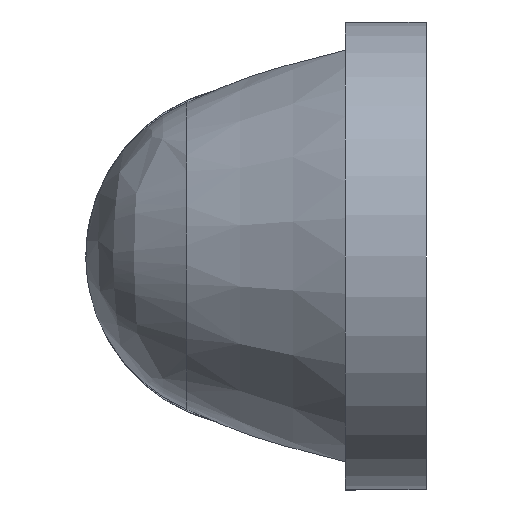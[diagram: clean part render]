
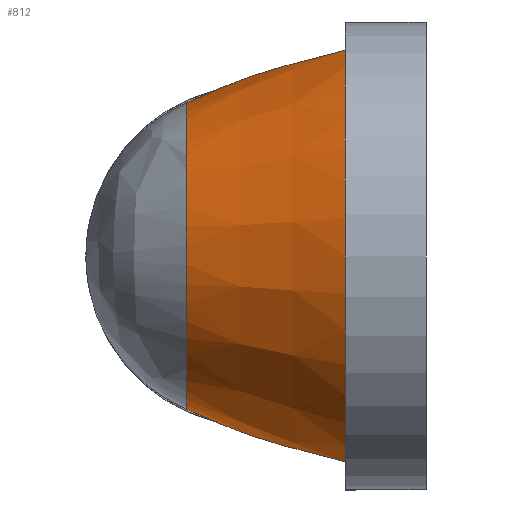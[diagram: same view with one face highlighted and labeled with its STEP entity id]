
A CAD part, left-side view. The second image highlights one B-rep face of the part: STEP entity #812.
In plain terms, the highlighted conical face has half-angle 23.025 degrees and reference radius 2.6 mm.
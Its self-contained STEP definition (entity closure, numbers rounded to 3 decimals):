
#7 = CARTESIAN_POINT ( 'NONE',  ( -1.606, 5.624, -3.242 ) ) ;
#13 = AXIS2_PLACEMENT_3D ( 'NONE', #452, #51, #259 ) ;
#19 = VERTEX_POINT ( 'NONE', #143 ) ;
#22 = CARTESIAN_POINT ( 'NONE',  ( -3.609, 5.625, -0.238 ) ) ;
#23 = ORIENTED_EDGE ( 'NONE', *, *, #586, .T. ) ;
#24 = VECTOR ( 'NONE', #130, 1000. ) ;
#41 = EDGE_CURVE ( 'NONE', #782, #189, #198, .T. ) ;
#43 = VERTEX_POINT ( 'NONE', #616 ) ;
#51 = DIRECTION ( 'NONE',  ( 0., 1., 0. ) ) ;
#54 = CARTESIAN_POINT ( 'NONE',  ( 0., 5.623, 3.61 ) ) ;
#69 = CARTESIAN_POINT ( 'NONE',  ( -0.941, 5.623, -3.493 ) ) ;
#78 = DIRECTION ( 'NONE',  ( 0., -0.92, -0.391 ) ) ;
#82 = EDGE_CURVE ( 'NONE', #19, #287, #706, .T. ) ;
#83 = CARTESIAN_POINT ( 'NONE',  ( -1.882, 1.9, 4.839 ) ) ;
#86 = CARTESIAN_POINT ( 'NONE',  ( -3.587, 5.625, 0.467 ) ) ;
#89 = CARTESIAN_POINT ( 'NONE',  ( -2.722, 5.625, -2.383 ) ) ;
#116 = CARTESIAN_POINT ( 'NONE',  ( -1.882, 1.9, -4.839 ) ) ;
#122 = CARTESIAN_POINT ( 'NONE',  ( -0.238, 5.623, -3.61 ) ) ;
#124 = CARTESIAN_POINT ( 'NONE',  ( -0.37, 4.286, 4.165 ) ) ;
#130 = DIRECTION ( 'NONE',  ( 0., 0.92, -0.391 ) ) ;
#133 = VECTOR ( 'NONE', #78, 1000. ) ;
#138 = CARTESIAN_POINT ( 'NONE',  ( -2.205, 5.624, -2.868 ) ) ;
#141 = CARTESIAN_POINT ( 'NONE',  ( 0., 8., 0. ) ) ;
#143 = CARTESIAN_POINT ( 'NONE',  ( 0., 5.012, 3.87 ) ) ;
#145 = CARTESIAN_POINT ( 'NONE',  ( 0., 14.118, 0. ) ) ;
#151 = CARTESIAN_POINT ( 'NONE',  ( -3.133, 5.625, 1.807 ) ) ;
#155 = CARTESIAN_POINT ( 'NONE',  ( -3.245, 5.625, -1.597 ) ) ;
#174 = B_SPLINE_CURVE_WITH_KNOTS ( 'NONE', 3,
 ( #856, #313, #730, #251, #658, #183, #581, #116 ),
 .UNSPECIFIED., .F., .F.,
 ( 4, 2, 2, 4 ),
 ( 0.006, 0.007, 0.008, 0.009 ),
 .UNSPECIFIED. ) ;
#175 = EDGE_CURVE ( 'NONE', #43, #782, #330, .T. ) ;
#176 = ORIENTED_EDGE ( 'NONE', *, *, #517, .T. ) ;
#183 = CARTESIAN_POINT ( 'NONE',  ( -1.325, 2.891, -4.591 ) ) ;
#185 = CARTESIAN_POINT ( 'NONE',  ( -0.192, 4.504, 4.086 ) ) ;
#186 = VERTEX_POINT ( 'NONE', #544 ) ;
#189 = VERTEX_POINT ( 'NONE', #611 ) ;
#191 = CARTESIAN_POINT ( 'NONE',  ( -1.814, 5.624, 3.13 ) ) ;
#198 = LINE ( 'NONE', #145, #535 ) ;
#206 = CARTESIAN_POINT ( 'NONE',  ( 0., 5.012, -3.87 ) ) ;
#209 = DIRECTION ( 'NONE',  ( 0., -1., 0. ) ) ;
#220 = CARTESIAN_POINT ( 'NONE',  ( -3.425, 5.625, -1.164 ) ) ;
#251 = CARTESIAN_POINT ( 'NONE',  ( -0.704, 3.839, -4.314 ) ) ;
#253 = VERTEX_POINT ( 'NONE', #83 ) ;
#259 = DIRECTION ( 'NONE',  ( 0., 0., 1. ) ) ;
#264 = CARTESIAN_POINT ( 'NONE',  ( -0.706, 3.836, 4.315 ) ) ;
#271 = CARTESIAN_POINT ( 'NONE',  ( 0., 14.118, 0. ) ) ;
#287 = VERTEX_POINT ( 'NONE', #557 ) ;
#289 = CARTESIAN_POINT ( 'NONE',  ( -2.87, 5.625, -2.201 ) ) ;
#304 = EDGE_LOOP ( 'NONE', ( #410, #508, #650, #716, #428, #176, #572, #23 ) ) ;
#308 = EDGE_CURVE ( 'NONE', #189, #646, #174, .T. ) ;
#313 = CARTESIAN_POINT ( 'NONE',  ( -0.192, 4.504, -4.086 ) ) ;
#318 = CARTESIAN_POINT ( 'NONE',  ( -0.949, 5.623, 3.515 ) ) ;
#324 = CARTESIAN_POINT ( 'NONE',  ( -1.326, 2.891, 4.591 ) ) ;
#330 = LINE ( 'NONE', #546, #133 ) ;
#352 = CARTESIAN_POINT ( 'NONE',  ( -3.133, 5.625, -1.807 ) ) ;
#383 = CARTESIAN_POINT ( 'NONE',  ( -1.602, 5.624, 3.243 ) ) ;
#386 = CARTESIAN_POINT ( 'NONE',  ( 0., 4.706, 4. ) ) ;
#391 = CARTESIAN_POINT ( 'NONE',  ( -2.387, 5.624, 2.718 ) ) ;
#410 = ORIENTED_EDGE ( 'NONE', *, *, #82, .T. ) ;
#417 = CARTESIAN_POINT ( 'NONE',  ( -3.495, 5.625, 0.933 ) ) ;
#422 = CARTESIAN_POINT ( 'NONE',  ( -2.39, 5.624, -2.715 ) ) ;
#428 = ORIENTED_EDGE ( 'NONE', *, *, #308, .T. ) ;
#444 = CONICAL_SURFACE ( 'NONE', #539, 2.6, 0.402 ) ;
#452 = CARTESIAN_POINT ( 'NONE',  ( 0., 1.9, 0. ) ) ;
#455 = CARTESIAN_POINT ( 'NONE',  ( 0., 14.118, 0. ) ) ;
#471 = CARTESIAN_POINT ( 'NONE',  ( -1.17, 5.624, -3.423 ) ) ;
#487 = CARTESIAN_POINT ( 'NONE',  ( -3.609, 5.625, 0.231 ) ) ;
#492 = CARTESIAN_POINT ( 'NONE',  ( -3.426, 5.625, 1.159 ) ) ;
#508 = ORIENTED_EDGE ( 'NONE', *, *, #578, .T. ) ;
#517 = EDGE_CURVE ( 'NONE', #646, #253, #638, .T. ) ;
#524 = CARTESIAN_POINT ( 'NONE',  ( -0.865, 3.604, 4.386 ) ) ;
#530 = EDGE_CURVE ( 'NONE', #253, #186, #630, .T. ) ;
#535 = VECTOR ( 'NONE', #761, 1000. ) ;
#539 = AXIS2_PLACEMENT_3D ( 'NONE', #141, #209, #820 ) ;
#540 = CARTESIAN_POINT ( 'NONE',  ( -0.474, 5.623, -3.587 ) ) ;
#544 = CARTESIAN_POINT ( 'NONE',  ( 0., 4.706, 4. ) ) ;
#546 = CARTESIAN_POINT ( 'NONE',  ( 0., 14.118, 0. ) ) ;
#555 = CARTESIAN_POINT ( 'NONE',  ( -3.586, 5.625, -0.472 ) ) ;
#557 = CARTESIAN_POINT ( 'NONE',  ( 0., 5.623, 3.61 ) ) ;
#572 = ORIENTED_EDGE ( 'NONE', *, *, #530, .T. ) ;
#578 = EDGE_CURVE ( 'NONE', #287, #43, #699, .T. ) ;
#581 = CARTESIAN_POINT ( 'NONE',  ( -1.609, 2.399, -4.718 ) ) ;
#584 = VECTOR ( 'NONE', #587, 1000. ) ;
#586 = EDGE_CURVE ( 'NONE', #186, #19, #780, .T. ) ;
#587 = DIRECTION ( 'NONE',  ( 0., 0.92, -0.391 ) ) ;
#603 = CARTESIAN_POINT ( 'NONE',  ( -1.813, 5.624, -3.131 ) ) ;
#611 = CARTESIAN_POINT ( 'NONE',  ( 0., 4.706, -4. ) ) ;
#616 = CARTESIAN_POINT ( 'NONE',  ( 0., 5.623, -3.61 ) ) ;
#618 = CARTESIAN_POINT ( 'NONE',  ( -1.882, 1.9, -4.839 ) ) ;
#624 = CARTESIAN_POINT ( 'NONE',  ( -3.493, 5.625, -0.939 ) ) ;
#629 = CARTESIAN_POINT ( 'NONE',  ( -3.245, 5.625, 1.597 ) ) ;
#630 = B_SPLINE_CURVE_WITH_KNOTS ( 'NONE', 3,
 ( #660, #837, #324, #524, #264, #124, #185, #386 ),
 .UNSPECIFIED., .F., .F.,
 ( 4, 2, 2, 4 ),
 ( 0.005, 0.007, 0.007, 0.008 ),
 .UNSPECIFIED. ) ;
#638 = CIRCLE ( 'NONE', #13, 5.193 ) ;
#646 = VERTEX_POINT ( 'NONE', #618 ) ;
#650 = ORIENTED_EDGE ( 'NONE', *, *, #175, .T. ) ;
#658 = CARTESIAN_POINT ( 'NONE',  ( -0.864, 3.606, -4.385 ) ) ;
#660 = CARTESIAN_POINT ( 'NONE',  ( -1.882, 1.9, 4.839 ) ) ;
#670 = CARTESIAN_POINT ( 'NONE',  ( -2.205, 5.624, 2.868 ) ) ;
#699 = B_SPLINE_CURVE_WITH_KNOTS ( 'NONE', 3,
 ( #54, #863, #318, #383, #191, #670, #391, #803, #740, #151, #629, #492, #417, #86, #487, #22, #555, #624, #220, #155, #352, #289, #89, #422, #138, #603, #7, #471, #69, #540, #122, #862 ),
 .UNSPECIFIED., .F., .F.,
 ( 4, 2, 2, 2, 2, 2, 2, 2, 2, 2, 2, 2, 2, 2, 2, 4 ),
 ( 0., 0.001, 0.002, 0.003, 0.004, 0.004, 0.005, 0.006, 0.006, 0.007, 0.008, 0.009, 0.009, 0.01, 0.011, 0.011 ),
 .UNSPECIFIED. ) ;
#706 = LINE ( 'NONE', #271, #24 ) ;
#716 = ORIENTED_EDGE ( 'NONE', *, *, #41, .T. ) ;
#730 = CARTESIAN_POINT ( 'NONE',  ( -0.368, 4.288, -4.164 ) ) ;
#740 = CARTESIAN_POINT ( 'NONE',  ( -2.873, 5.625, 2.198 ) ) ;
#761 = DIRECTION ( 'NONE',  ( 0., -0.92, -0.391 ) ) ;
#780 = LINE ( 'NONE', #455, #584 ) ;
#782 = VERTEX_POINT ( 'NONE', #206 ) ;
#803 = CARTESIAN_POINT ( 'NONE',  ( -2.723, 5.625, 2.381 ) ) ;
#812 = ADVANCED_FACE ( 'NONE', ( #827 ), #444, .T. ) ;
#820 = DIRECTION ( 'NONE',  ( 0., 0., -1. ) ) ;
#827 = FACE_OUTER_BOUND ( 'NONE', #304, .T. ) ;
#837 = CARTESIAN_POINT ( 'NONE',  ( -1.61, 2.398, 4.718 ) ) ;
#856 = CARTESIAN_POINT ( 'NONE',  ( 0., 4.706, -4. ) ) ;
#862 = CARTESIAN_POINT ( 'NONE',  ( 0., 5.623, -3.61 ) ) ;
#863 = CARTESIAN_POINT ( 'NONE',  ( -0.476, 5.623, 3.61 ) ) ;
